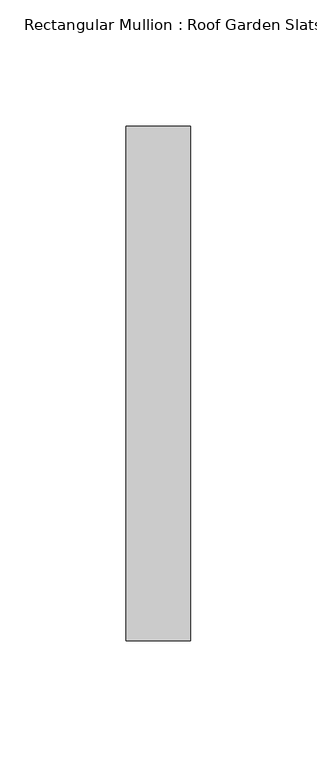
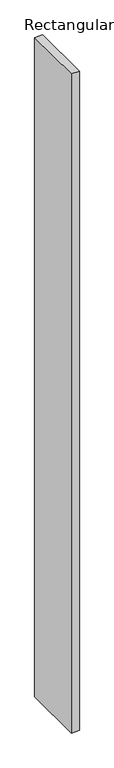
"""IFC4 building model written with IfcOpenShell, lengths in millimetres: member geometry, Rectangular Mullion : Roof Garden Slats."""

from ifc_helpers import new_model, si_unit, frame, origin, place, context, project, spatial, polyline, outline, extrude, source, transform, mapped, element, save


def rectangular_mullion_roof_garden_slats_287bb984(model_context):
    return source(origin(), model_context, "Body", "SweptSolid", [
        extrude(outline(polyline([(12.7, 139.7), (12.7, -63.5), (-12.7, -63.5), (-12.7, 139.7), (12.7, 139.7)])), frame((0.0, 0.0, -2229.9868367), z_axis=(0.0, 0.0, 1.0), x_axis=(1.0, 0.0, 0.0)), (0.0, 0.0, 1.0), 2229.9868367),
    ])


if __name__ == "__main__":
    model = new_model("IFC4")
    model_context = context("Model", 3, world=origin())
    ifc_project = project(units=[si_unit("LENGTHUNIT", "METRE", prefix="MILLI")], contexts=[model_context])
    site = spatial("IfcSite", under=ifc_project)
    building = spatial("IfcBuilding", under=site)
    placement = place(None, origin())
    rectangular_mullion_roof_garden_slats_shape = rectangular_mullion_roof_garden_slats_287bb984(model_context)
    element("IfcMember", 1, ObjectType="Rectangular Mullion : Roof Garden Slats", at=placement, inside=building, context=model_context, shape_type="MappedRepresentation", body=[
        mapped(rectangular_mullion_roof_garden_slats_shape, transform((0.0, 0.0, 0.0), x_axis=(1.0, 0.0, 0.0), y_axis=(0.0, 1.0, 0.0), z_axis=(0.0, 0.0, 1.0))),
    ])
    save(model, "model.ifc")
